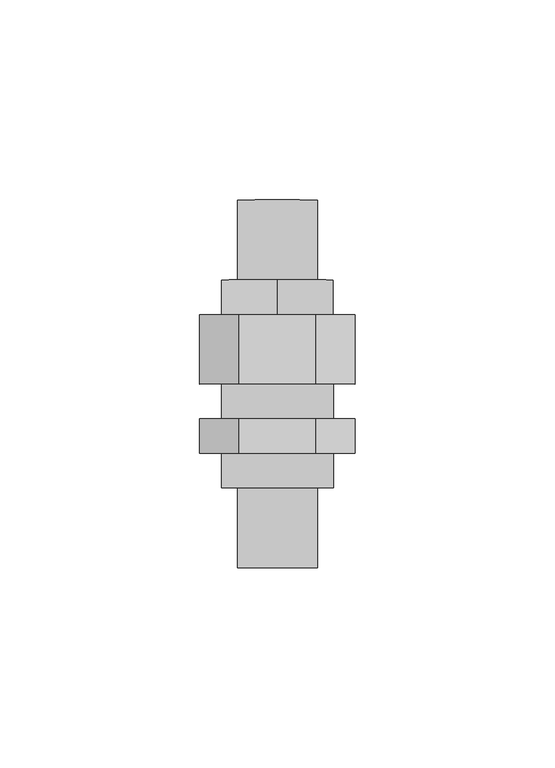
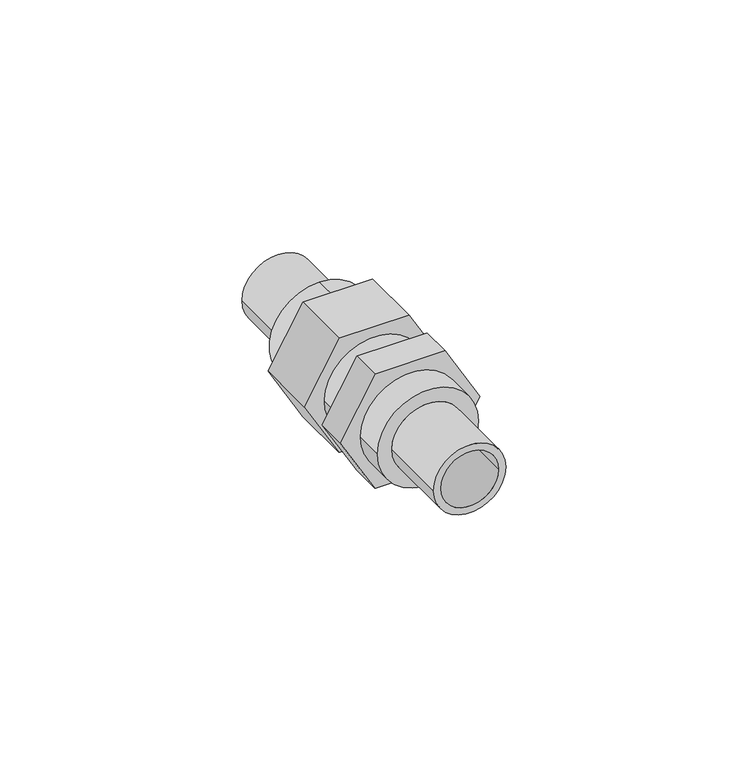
"""IFC4 building model written with IfcOpenShell, lengths in millimetres: pipe fitting geometry, EGB_VASEN_ PPR_Union plastico plastico WXR105 : Unión plástico plástico WXR105."""

from ifc_helpers import new_model, si_unit, point, frame, origin, origin_2d, place, context, project, spatial, polyline, circle_curve, trimmed, segment, composite_curve, outline, extrude, source, transform, mapped, element, save


def pipe_fitting_793e33de(model_context):
    return source(origin(), model_context, "Body", "SweptSolid", [
        extrude(outline(polyline([(0.0, 19.398969), (16.8, 9.6994845), (16.8, -9.6994845), (0.0, -19.398969), (-16.8, -9.6994845), (-16.8, 9.6994845), (0.0, 19.398969)])), frame((0.0, -27.1895833, 0.0), z_axis=(0.0, 1.0, 0.0), x_axis=(0.0, 0.0, 1.0)), (0.0, 0.0, 1.0), 8.6666667),
        extrude(outline(polyline([(0.0, 19.398969), (16.8, 9.6994845), (16.8, -9.6994845), (0.0, -19.398969), (-16.8, -9.6994845), (-16.8, 9.6994845), (0.0, 19.398969)])), frame((0.0, -9.85625, 0.0), z_axis=(0.0, 1.0, 0.0), x_axis=(0.0, 0.0, 1.0)), (0.0, 0.0, 1.0), 17.3333333),
        extrude(outline(composite_curve([segment(trimmed(circle_curve(origin_2d(), 14.0), [point((0.0, -14.0))], [point((0.0, 14.0))], False, "CARTESIAN"), True, "CONTINUOUS"), segment(trimmed(circle_curve(origin_2d(), 14.0), [point((0.0, 14.0))], [point((0.0, -14.0))], False, "CARTESIAN"), True, "CONTINUOUS")], self_intersect=False), holes=[composite_curve([segment(trimmed(circle_curve(origin_2d(), 10.0), [point((0.0, -10.0))], [point((0.0, 10.0))], True, "CARTESIAN"), True, "CONTINUOUS"), segment(trimmed(circle_curve(origin_2d(), 10.0), [point((0.0, 10.0))], [point((0.0, -10.0))], True, "CARTESIAN"), True, "CONTINUOUS")], self_intersect=False)]), frame((0.0, -35.85625, 0.0), z_axis=(0.0, 1.0, 0.0), x_axis=(0.0, 0.0, 1.0)), (0.0, 0.0, 1.0), 8.6666667),
        extrude(outline(composite_curve([segment(trimmed(circle_curve(origin_2d(), 14.0), [point((-14.0, 0.0))], [point((14.0, 0.0))], False, "CARTESIAN"), True, "CONTINUOUS"), segment(trimmed(circle_curve(origin_2d(), 14.0), [point((14.0, 0.0))], [point((-14.0, 0.0))], False, "CARTESIAN"), True, "CONTINUOUS")], self_intersect=False), holes=[composite_curve([segment(trimmed(circle_curve(origin_2d(), 10.0), [point((-10.0, 0.0))], [point((10.0, 0.0))], True, "CARTESIAN"), True, "CONTINUOUS"), segment(trimmed(circle_curve(origin_2d(), 10.0), [point((10.0, 0.0))], [point((-10.0, 0.0))], True, "CARTESIAN"), True, "CONTINUOUS")], self_intersect=False)]), frame((0.0, 7.4770833, 0.0), z_axis=(0.0, 1.0, 0.0), x_axis=(0.0, 0.0, 1.0)), (0.0, 0.0, 1.0), 8.6666667),
        extrude(outline(composite_curve([segment(trimmed(circle_curve(origin_2d(), 10.0), [point((0.0, -10.0))], [point((0.0, 10.0))], False, "CARTESIAN"), True, "CONTINUOUS"), segment(trimmed(circle_curve(origin_2d(), 10.0), [point((0.0, 10.0))], [point((0.0, -10.0))], False, "CARTESIAN"), True, "CONTINUOUS")], self_intersect=False), holes=[composite_curve([segment(trimmed(circle_curve(origin_2d(), 8.0), [point((0.0, -8.0))], [point((0.0, 8.0))], True, "CARTESIAN"), True, "CONTINUOUS"), segment(trimmed(circle_curve(origin_2d(), 8.0), [point((0.0, 8.0))], [point((0.0, -8.0))], True, "CARTESIAN"), True, "CONTINUOUS")], self_intersect=False)]), frame((0.0, -55.85625, 0.0), z_axis=(0.0, 1.0, 0.0), x_axis=(0.0, 0.0, 1.0)), (0.0, 0.0, 1.0), 20.0),
        extrude(outline(composite_curve([segment(trimmed(circle_curve(origin_2d(), 10.0), [point((0.0, -10.0))], [point((0.0, 10.0))], False, "CARTESIAN"), True, "CONTINUOUS"), segment(trimmed(circle_curve(origin_2d(), 10.0), [point((0.0, 10.0))], [point((0.0, -10.0))], False, "CARTESIAN"), True, "CONTINUOUS")], self_intersect=False), holes=[composite_curve([segment(trimmed(circle_curve(origin_2d(), 8.0), [point((0.0, -8.0))], [point((0.0, 8.0))], True, "CARTESIAN"), True, "CONTINUOUS"), segment(trimmed(circle_curve(origin_2d(), 8.0), [point((0.0, 8.0))], [point((0.0, -8.0))], True, "CARTESIAN"), True, "CONTINUOUS")], self_intersect=False)]), frame((0.0, 16.14375, 0.0), z_axis=(0.0, 1.0, 0.0), x_axis=(0.0, 0.0, 1.0)), (0.0, 0.0, 1.0), 20.0),
        extrude(outline(composite_curve([segment(trimmed(circle_curve(origin_2d(), 14.0), [point((0.0, -14.0))], [point((0.0, 14.0))], False, "CARTESIAN"), True, "CONTINUOUS"), segment(trimmed(circle_curve(origin_2d(), 14.0), [point((0.0, 14.0))], [point((0.0, -14.0))], False, "CARTESIAN"), True, "CONTINUOUS")], self_intersect=False)), frame((0.0, -18.5229167, 0.0), z_axis=(0.0, 1.0, 0.0), x_axis=(0.0, 0.0, 1.0)), (0.0, 0.0, 1.0), 8.6666667),
    ])


if __name__ == "__main__":
    model = new_model("IFC4")
    model_context = context("Model", 3, world=origin())
    ifc_project = project(units=[si_unit("LENGTHUNIT", "METRE", prefix="MILLI")], contexts=[model_context])
    site = spatial("IfcSite", under=ifc_project)
    building = spatial("IfcBuilding", under=site)
    placement = place(None, origin())
    pipe_fitting_shape = pipe_fitting_793e33de(model_context)
    element("IfcPipeFitting", 1, ObjectType="EGB_VASEN_ PPR_Union plastico plastico WXR105 : Unión plástico plástico WXR105", at=placement, inside=building, context=model_context, shape_type="MappedRepresentation", body=[
        mapped(pipe_fitting_shape, transform((0.0, 0.0, 0.0), x_axis=(1.0, 0.0, 0.0), y_axis=(0.0, 1.0, 0.0), z_axis=(0.0, 0.0, 1.0))),
    ])
    save(model, "model.ifc")
